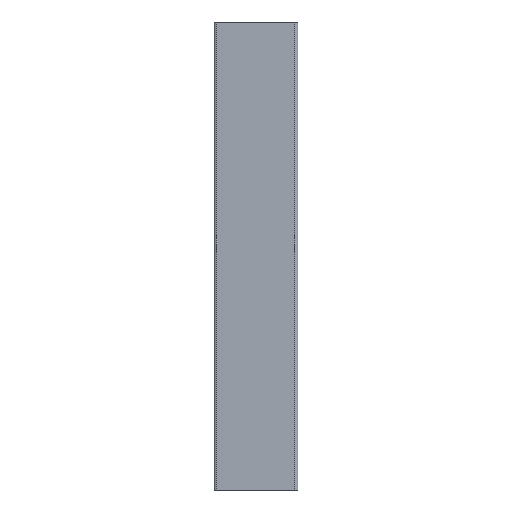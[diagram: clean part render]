
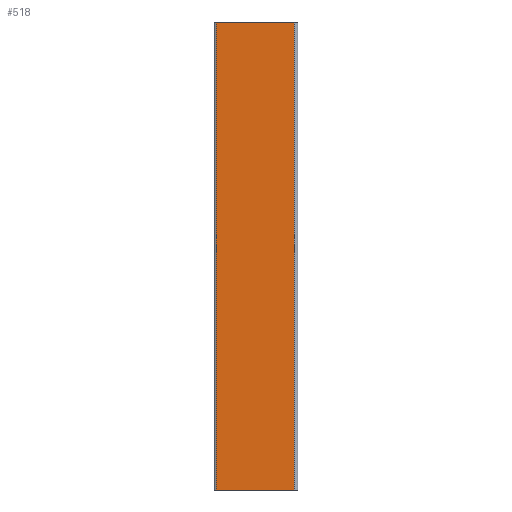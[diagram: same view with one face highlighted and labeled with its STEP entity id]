
A CAD part, front view. The second image highlights one B-rep face of the part: STEP entity #518.
In plain terms, the highlighted planar face has unit normal (0, -1, 0).
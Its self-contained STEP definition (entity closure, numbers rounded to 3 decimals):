
#25=PLANE('',#588);
#51=FACE_OUTER_BOUND('',#78,.T.);
#78=EDGE_LOOP('',(#440,#441,#442,#443));
#98=LINE('',#802,#149);
#127=LINE('',#885,#178);
#128=LINE('',#888,#179);
#129=LINE('',#889,#180);
#149=VECTOR('',#637,10.);
#178=VECTOR('',#728,10.);
#179=VECTOR('',#731,10.);
#180=VECTOR('',#732,10.);
#232=VERTEX_POINT('',#799);
#233=VERTEX_POINT('',#801);
#256=VERTEX_POINT('',#883);
#257=VERTEX_POINT('',#887);
#284=EDGE_CURVE('',#232,#233,#98,.T.);
#326=EDGE_CURVE('',#233,#256,#127,.T.);
#327=EDGE_CURVE('',#257,#232,#128,.T.);
#328=EDGE_CURVE('',#257,#256,#129,.T.);
#440=ORIENTED_EDGE('',*,*,#326,.F.);
#441=ORIENTED_EDGE('',*,*,#284,.F.);
#442=ORIENTED_EDGE('',*,*,#327,.F.);
#443=ORIENTED_EDGE('',*,*,#328,.T.);
#518=ADVANCED_FACE('',(#51),#25,.T.);
#588=AXIS2_PLACEMENT_3D('',#886,#729,#730);
#637=DIRECTION('',(-1.,0.,0.));
#728=DIRECTION('',(0.,0.,1.));
#729=DIRECTION('center_axis',(0.,-1.,0.));
#730=DIRECTION('ref_axis',(0.,0.,-1.));
#731=DIRECTION('',(0.,0.,-1.));
#732=DIRECTION('',(-1.,0.,0.));
#799=CARTESIAN_POINT('',(-0.75,0.,0.));
#801=CARTESIAN_POINT('',(-17.449,0.,0.));
#802=CARTESIAN_POINT('',(0.,0.,0.));
#883=CARTESIAN_POINT('',(-17.449,0.,100.));
#885=CARTESIAN_POINT('',(-17.449,0.,0.));
#886=CARTESIAN_POINT('Origin',(0.,0.,0.));
#887=CARTESIAN_POINT('',(-0.75,0.,100.));
#888=CARTESIAN_POINT('',(-0.75,0.,0.));
#889=CARTESIAN_POINT('',(0.,0.,100.));
